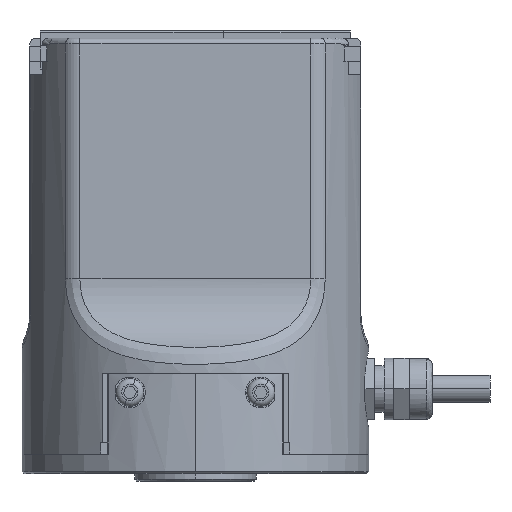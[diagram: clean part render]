
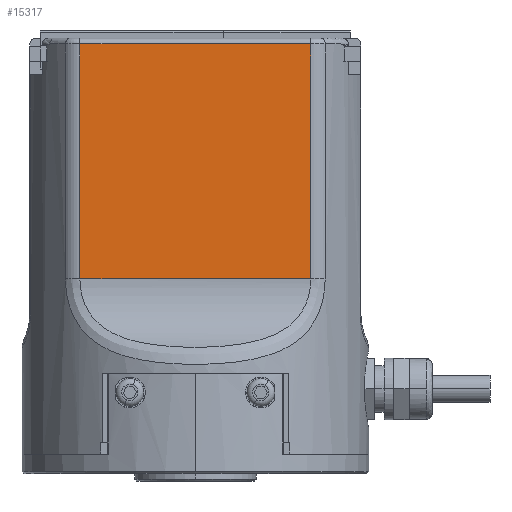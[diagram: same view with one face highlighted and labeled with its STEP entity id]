
A CAD part, top view. The second image highlights one B-rep face of the part: STEP entity #15317.
In plain terms, the highlighted planar face has unit normal (0, 0, 1).
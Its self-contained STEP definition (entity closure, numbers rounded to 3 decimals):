
#985 = CARTESIAN_POINT ( 'NONE',  ( 29.962, -46., 31.5 ) ) ;
#1042 = CARTESIAN_POINT ( 'NONE',  ( 43., 15., 31.5 ) ) ;
#1242 = CARTESIAN_POINT ( 'NONE',  ( -29.962, -46., 31.5 ) ) ;
#1608 = ORIENTED_EDGE ( 'NONE', *, *, #9347, .T. ) ;
#1755 = ORIENTED_EDGE ( 'NONE', *, *, #6717, .T. ) ;
#2276 = LINE ( 'NONE', #10134, #10557 ) ;
#3545 = AXIS2_PLACEMENT_3D ( 'NONE', #4401, #12393, #18979 ) ;
#3597 = CARTESIAN_POINT ( 'NONE',  ( 29.962, 15., 31.5 ) ) ;
#4205 = VERTEX_POINT ( 'NONE', #985 ) ;
#4366 = DIRECTION ( 'NONE',  ( 0., -1., 0. ) ) ;
#4401 = CARTESIAN_POINT ( 'NONE',  ( 43., 16.5, 31.5 ) ) ;
#4856 = VERTEX_POINT ( 'NONE', #3597 ) ;
#6717 = EDGE_CURVE ( 'NONE', #4205, #4856, #2276, .T. ) ;
#7430 = LINE ( 'NONE', #14062, #11045 ) ;
#7907 = PLANE ( 'NONE',  #3545 ) ;
#9285 = LINE ( 'NONE', #10973, #19739 ) ;
#9347 = EDGE_CURVE ( 'NONE', #18774, #4205, #9285, .T. ) ;
#10134 = CARTESIAN_POINT ( 'NONE',  ( 29.962, 16.5, 31.5 ) ) ;
#10224 = DIRECTION ( 'NONE',  ( 0., 1., 0. ) ) ;
#10557 = VECTOR ( 'NONE', #10224, 1000. ) ;
#10668 = ORIENTED_EDGE ( 'NONE', *, *, #15386, .T. ) ;
#10775 = EDGE_LOOP ( 'NONE', ( #1755, #14373, #10668, #1608 ) ) ;
#10973 = CARTESIAN_POINT ( 'NONE',  ( -45., -46., 31.5 ) ) ;
#11045 = VECTOR ( 'NONE', #4366, 1000. ) ;
#11439 = CARTESIAN_POINT ( 'NONE',  ( -29.962, 15., 31.5 ) ) ;
#12393 = DIRECTION ( 'NONE',  ( 0., 0., -1. ) ) ;
#12510 = FACE_OUTER_BOUND ( 'NONE', #10775, .T. ) ;
#13242 = VECTOR ( 'NONE', #18802, 1000. ) ;
#13687 = VERTEX_POINT ( 'NONE', #11439 ) ;
#13952 = LINE ( 'NONE', #1042, #13242 ) ;
#14062 = CARTESIAN_POINT ( 'NONE',  ( -29.962, 0., 31.5 ) ) ;
#14373 = ORIENTED_EDGE ( 'NONE', *, *, #16549, .T. ) ;
#15317 = ADVANCED_FACE ( 'NONE', ( #12510 ), #7907, .F. ) ;
#15386 = EDGE_CURVE ( 'NONE', #13687, #18774, #7430, .T. ) ;
#16549 = EDGE_CURVE ( 'NONE', #4856, #13687, #13952, .T. ) ;
#17519 = DIRECTION ( 'NONE',  ( 1., 0., 0. ) ) ;
#18774 = VERTEX_POINT ( 'NONE', #1242 ) ;
#18802 = DIRECTION ( 'NONE',  ( -1., 0., 0. ) ) ;
#18979 = DIRECTION ( 'NONE',  ( -1., 0., 0. ) ) ;
#19739 = VECTOR ( 'NONE', #17519, 1000. ) ;
